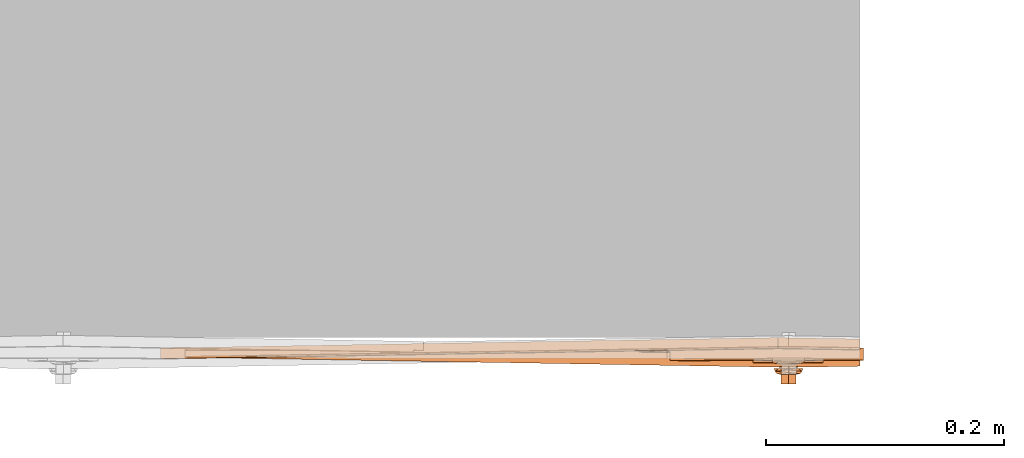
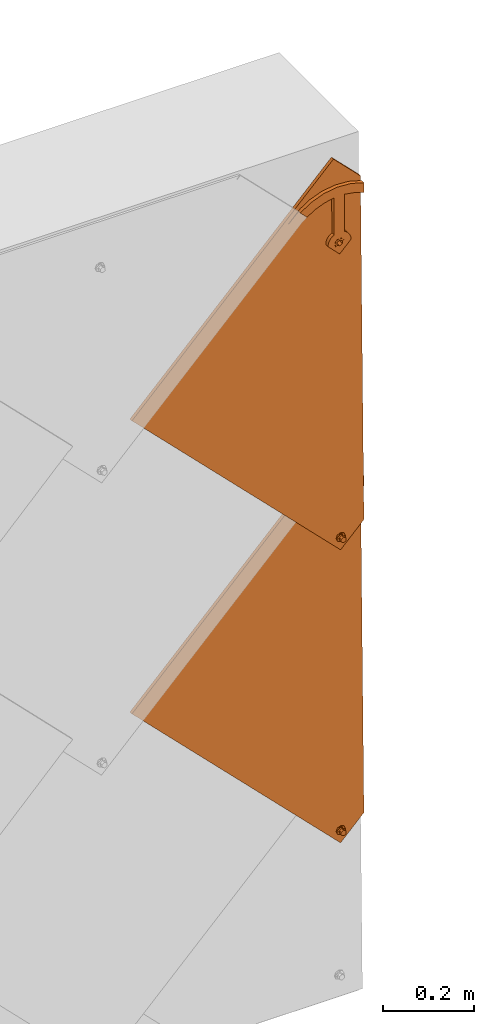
# One storey, part 6 of 151: 2 proxies.
"""IFC2X3 building model written with IfcOpenShell, lengths in millimetres."""

from ifc_helpers import new_model, entity, si_unit, converted_unit, derived_unit, direction, frame, origin, place, context, subcontext, project, spatial, faceted_brep, source, transform, mapped, material, material_list, type_object, type_shapes, element, save


model = new_model("IFC2X3")

# Units and contexts
model_context = context("Model", 3, precision=0.01, world=origin(), true_north=direction((6.12303176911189e-17, 1.0)))
body_context = subcontext(model_context, "Body", "Model", "MODEL_VIEW")
ifc_project = project(units=[si_unit("LENGTHUNIT", "METRE", prefix="MILLI"), si_unit("AREAUNIT", "SQUARE_METRE"), si_unit("VOLUMEUNIT", "CUBIC_METRE"), converted_unit("PLANEANGLEUNIT", "DEGREE", entity("IfcRatioMeasure", 0.0174532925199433), si_unit("PLANEANGLEUNIT", "RADIAN"), dimensions=[0, 0, 0, 0, 0, 0, 0]), si_unit("MASSUNIT", "GRAM", prefix="KILO"), derived_unit("MASSDENSITYUNIT", [(si_unit("MASSUNIT", "GRAM", prefix="KILO"), 1), (si_unit("LENGTHUNIT", "METRE"), -3)]), si_unit("TIMEUNIT", "SECOND"), si_unit("FREQUENCYUNIT", "HERTZ"), si_unit("THERMODYNAMICTEMPERATUREUNIT", "DEGREE_CELSIUS"), derived_unit("THERMALTRANSMITTANCEUNIT", [(si_unit("MASSUNIT", "GRAM", prefix="KILO"), 1), (si_unit("THERMODYNAMICTEMPERATUREUNIT", "KELVIN"), -1), (si_unit("TIMEUNIT", "SECOND"), -3)]), derived_unit("VOLUMETRICFLOWRATEUNIT", [(si_unit("LENGTHUNIT", "METRE"), 3), (si_unit("TIMEUNIT", "SECOND"), -1)]), si_unit("ELECTRICCURRENTUNIT", "AMPERE"), si_unit("ELECTRICVOLTAGEUNIT", "VOLT"), si_unit("POWERUNIT", "WATT"), si_unit("FORCEUNIT", "NEWTON", prefix="KILO"), si_unit("ILLUMINANCEUNIT", "LUX"), si_unit("LUMINOUSFLUXUNIT", "LUMEN"), si_unit("LUMINOUSINTENSITYUNIT", "CANDELA"), derived_unit("USERDEFINED", [(si_unit("MASSUNIT", "GRAM", prefix="KILO"), -1), (si_unit("LENGTHUNIT", "METRE"), -2), (si_unit("TIMEUNIT", "SECOND"), 3), (si_unit("LUMINOUSFLUXUNIT", "LUMEN"), 1)]), derived_unit("LINEARVELOCITYUNIT", [(si_unit("LENGTHUNIT", "METRE"), 1), (si_unit("TIMEUNIT", "SECOND"), -1)]), si_unit("PRESSUREUNIT", "PASCAL"), derived_unit("USERDEFINED", [(si_unit("LENGTHUNIT", "METRE"), -2), (si_unit("MASSUNIT", "GRAM", prefix="KILO"), 1), (si_unit("TIMEUNIT", "SECOND"), -2)])], contexts=[model_context])

# Site, building, storey
site_placement = place(None, origin())
site = spatial("IfcSite", under=ifc_project, at=site_placement, Name="Default", CompositionType="ELEMENT")
building_placement = place(site_placement, origin())
building = spatial("IfcBuilding", under=site, at=building_placement, CompositionType="ELEMENT")
storey_placement = place(building_placement, origin())
storey = spatial("IfcBuildingStorey", under=building, at=storey_placement, Name="Level 1", CompositionType="ELEMENT", Elevation=0.0)

# Proxies
ifc_material_1 = material(Name="Rubber - Sunstyle - Black")
ifc_material_2 = material(Name="Glass - Sunstyle - Tainted Terracotta")
ifc_material_list_1 = material_list([ifc_material_1, ifc_material_2])
ifc_material_list_2 = material_list([ifc_material_1, ifc_material_2])
building_element_proxy_type = type_object("IfcBuildingElementProxyType", Name="Shingle Right - Terracotta", PredefinedType="NOTDEFINED", material=ifc_material_list_2)
shared_shape = source(origin(), body_context, "Body", "Brep", [
    faceted_brep([(526.70519509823, 41.3127833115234, 3.87722628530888), (520.930992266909, 37.9795131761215, 3.9330502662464), (520.930992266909, 38.34782226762, 25.9249196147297), (526.70519509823, 41.6810924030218, 25.8690956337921), (520.930992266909, 31.3129729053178, 4.0446982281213), (520.930992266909, 31.6812819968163, 26.0365675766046), (526.70519509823, 27.979702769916, 4.1005222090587), (526.70519509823, 28.3480118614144, 26.092391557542), (532.47939792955, 31.3129729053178, 4.04469822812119), (532.47939792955, 31.6812819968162, 26.0365675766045), (532.47939792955, 37.9795131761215, 3.93305026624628), (532.47939792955, 38.3478222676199, 25.9249196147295), (518.101490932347, 26.4120542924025, 26.1248140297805), (526.70519509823, 22.8487830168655, 26.1844899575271), (514.537719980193, 35.0145521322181, 25.9807435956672), (518.101490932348, 43.6170499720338, 25.8366731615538), (526.70519509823, 47.1803212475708, 25.776997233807), (535.308899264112, 43.6170499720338, 25.8366731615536), (538.872670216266, 35.0145521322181, 25.9807435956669), (535.308899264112, 26.4120542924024, 26.1248140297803), (515.380950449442, 37.3096292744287, 28.2935855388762), (516.94872054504, 35.0855670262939, 30.2210682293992), (526.70519509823, 42.3986422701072, 30.8537686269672), (526.70519509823, 43.6391399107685, 30.2734219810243), (526.70519509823, 45.7966907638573, 29.2640469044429), (526.70519509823, 23.4048270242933, 27.4595479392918), (526.70519509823, 24.3484036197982, 29.6232523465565), (526.70519509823, 27.7977793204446, 31.0982967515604), (526.70519509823, 46.6672851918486, 27.0699596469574), (520.381949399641, 31.4479950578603, 31.0371647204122), (520.381949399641, 38.7484265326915, 30.9149006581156), (538.029439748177, 32.7982090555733, 28.3691406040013), (536.554075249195, 34.0111605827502, 30.1422000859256), (533.028440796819, 38.7484265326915, 30.9149006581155), (533.028440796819, 31.4479950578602, 31.0371647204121), (520.381949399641, 31.5820235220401, 39.0400528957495), (526.70519509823, 27.9318077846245, 39.1011849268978), (526.70519509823, 35.2322392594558, 38.9789208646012), (520.381949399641, 38.8824549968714, 38.9177888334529), (533.028440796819, 31.5820235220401, 39.0400528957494), (533.028440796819, 38.8824549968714, 38.9177888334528), (526.70519509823, 42.532670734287, 38.8566568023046), (526.70519509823, 34.6462430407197, 3.98887424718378)], [[[0, 1, 2, 3]], [[1, 4, 5, 2]], [[4, 6, 7, 5]], [[6, 8, 9, 7]], [[8, 10, 11, 9]], [[10, 0, 3, 11]], [[12, 7, 13]], [[7, 12, 5]], [[14, 5, 12]], [[5, 14, 2]], [[15, 2, 14]], [[3, 2, 15]], [[15, 16, 3]], [[16, 17, 3]], [[11, 3, 17]], [[11, 17, 18]], [[9, 11, 18]], [[18, 19, 9]], [[7, 9, 19]], [[19, 13, 7]], [[20, 14, 12]], [[21, 22, 23, 24]], [[24, 20, 21]], [[25, 20, 12]], [[26, 27, 21]], [[15, 14, 20]], [[12, 13, 25]], [[20, 28, 15]], [[28, 20, 24]], [[21, 27, 29]], [[21, 29, 30]], [[26, 21, 20]], [[20, 25, 26]], [[15, 28, 16]], [[21, 30, 22]], [[31, 18, 17]], [[28, 31, 17]], [[32, 27, 26]], [[26, 31, 32]], [[26, 25, 31]], [[25, 19, 31]], [[17, 16, 28]], [[31, 19, 18]], [[24, 31, 28]], [[33, 34, 32]], [[23, 22, 33]], [[24, 32, 31]], [[27, 32, 34]], [[32, 23, 33]], [[19, 25, 13]], [[32, 24, 23]], [[35, 36, 37]], [[37, 38, 35]], [[36, 39, 37]], [[40, 37, 39]], [[37, 40, 41]], [[37, 41, 38]], [[42, 6, 4]], [[4, 1, 42]], [[1, 0, 42]], [[42, 8, 6]], [[0, 10, 42]], [[8, 42, 10]], [[22, 30, 38, 41]], [[30, 29, 35, 38]], [[29, 27, 36, 35]], [[27, 34, 39, 36]], [[34, 33, 40, 39]], [[33, 22, 41, 40]]]),
    faceted_brep([(526.70519509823, 811.19100538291, 21.4210230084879), (526.70519509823, 815.690374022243, 21.3456697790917), (518.101490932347, 814.754276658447, 21.3613470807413), (535.308899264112, 814.754276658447, 21.3613470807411), (533.345423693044, 819.523574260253, 21.2814732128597), (538.872670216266, 823.356774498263, 21.2172766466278), (533.345423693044, 827.189974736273, 21.1530800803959), (535.308899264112, 831.959272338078, 21.0732062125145), (526.70519509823, 831.023174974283, 21.0888835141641), (526.70519509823, 835.522543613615, 21.0135302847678), (518.101490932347, 831.959272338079, 21.0732062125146), (520.064966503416, 827.189974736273, 21.1530800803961), (514.537719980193, 823.356774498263, 21.217276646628), (520.064966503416, 819.523574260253, 21.2814732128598), (520.064966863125, 826.922051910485, 5.15532344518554), (526.70519509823, 830.755251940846, 5.09112688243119), (520.064966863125, 819.255651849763, 5.2837165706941), (526.70519509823, 815.422451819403, 5.34791313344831), (533.345423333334, 819.255651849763, 5.28371657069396), (533.345423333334, 826.922051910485, 5.1553234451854), (518.101490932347, 814.486354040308, 5.36359044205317), (526.70519509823, 810.923082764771, 5.4232663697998), (514.537719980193, 823.088851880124, 5.21952000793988), (518.101490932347, 831.69134971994, 5.07544957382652), (526.70519509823, 835.254620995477, 5.01577364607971), (535.308899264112, 831.69134971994, 5.07544957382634), (538.872670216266, 823.088851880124, 5.21952000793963), (535.308899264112, 814.486354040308, 5.36359044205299)], [[[0, 1, 2]], [[1, 0, 3]], [[3, 4, 1]], [[4, 3, 5]], [[6, 4, 5]], [[5, 7, 6]], [[7, 8, 6]], [[8, 7, 9]], [[8, 9, 10]], [[10, 11, 8]], [[12, 11, 10]], [[2, 13, 12]], [[12, 13, 11]], [[13, 2, 1]], [[8, 11, 14, 15]], [[11, 13, 16, 14]], [[13, 1, 17, 16]], [[1, 4, 18, 17]], [[4, 6, 19, 18]], [[6, 8, 15, 19]], [[20, 17, 21]], [[17, 20, 16]], [[22, 16, 20]], [[14, 16, 22]], [[23, 14, 22]], [[15, 14, 23]], [[23, 24, 15]], [[24, 25, 15]], [[19, 15, 25]], [[19, 25, 26]], [[26, 18, 19]], [[26, 27, 18]], [[17, 18, 27]], [[27, 21, 17]], [[24, 23, 10, 9]], [[10, 23, 22, 12]], [[20, 21, 0, 2]], [[20, 2, 12, 22]], [[21, 27, 3, 0]], [[3, 27, 26, 5]], [[25, 24, 9, 7]], [[25, 7, 5, 26]]]),
    faceted_brep([(578.30986553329, 967.15023469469, 8.79467739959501), (586.794551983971, 975.634921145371, 8.65258001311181), (586.794551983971, 975.660038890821, 10.1523696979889), (578.30986553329, 967.17535244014, 10.294467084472), (517.891471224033, 1027.55168765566, 7.7831033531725), (8.48468645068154, 518.287740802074, 16.3120073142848), (0.0, 526.772427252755, 16.1699099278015), (517.891471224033, 1044.51868144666, 7.49894842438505), (517.891471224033, 1044.54379919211, 8.99873810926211), (0.0, 526.797544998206, 17.6696996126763), (8.4846864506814, 518.312858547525, 17.8117969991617), (517.891471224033, 1027.57680540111, 9.28289303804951)], [[[0, 1, 2, 3]], [[1, 0, 4, 5, 6, 7]], [[2, 1, 7, 8]], [[3, 2, 8, 9, 10, 11]], [[0, 3, 11, 4]], [[5, 10, 9, 6]], [[8, 7, 6, 9]], [[4, 11, 10, 5]]]),
    faceted_brep([(586.794551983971, 975.634921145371, 8.65258001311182), (517.891471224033, 1044.51868144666, 7.49894842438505), (523.812678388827, 834.561085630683, 11.0152157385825), (526.918506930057, 834.969918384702, 11.0083688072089), (530.024335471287, 834.561085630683, 11.0152157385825), (532.918506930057, 833.362448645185, 11.0352899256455), (535.403788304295, 831.455692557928, 11.0672233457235), (537.31081177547, 828.970759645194, 11.1088397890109), (538.509616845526, 826.076993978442, 11.1573031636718), (538.918506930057, 822.971600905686, 11.2093107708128), (538.509616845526, 819.86620783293, 11.2613183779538), (586.79455198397, 60.1087646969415, 23.9853651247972), (520.918506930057, 833.362448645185, 11.0352899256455), (518.433225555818, 831.455692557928, 11.0672233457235), (516.526202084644, 828.970759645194, 11.1088397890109), (515.327397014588, 826.076993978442, 11.1573031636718), (0.0, 526.772427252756, 16.1699099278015), (514.918506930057, 822.971600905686, 11.2093107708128), (515.327397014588, 819.86620783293, 11.2613183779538), (516.526202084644, 816.972442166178, 11.3097817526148), (518.433225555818, 814.487509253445, 11.3513981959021), (520.918506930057, 812.580753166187, 11.3833316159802), (523.812678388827, 811.382116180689, 11.4034058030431), (524.667140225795, 42.642731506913, 24.2778777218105), (522.737692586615, 41.8436401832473, 24.2912605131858), (521.080838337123, 40.572469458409, 24.3125494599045), (519.80948935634, 38.9158475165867, 24.3402937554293), (519.010285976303, 36.9866704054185, 24.37260267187), (518.737692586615, 34.9164083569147, 24.407274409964), (519.010285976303, 32.8461463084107, 24.441946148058), (526.794551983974, 0.125588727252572, 24.989934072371), (519.80948935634, 30.9169691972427, 24.4742550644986), (533.665895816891, 30.9169691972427, 24.4742550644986), (532.394546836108, 29.2603472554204, 24.5019993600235), (530.737692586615, 27.9891765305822, 24.5232883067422), (528.808244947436, 27.1900852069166, 24.5366710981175), (526.737692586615, 26.9175300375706, 24.5412357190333), (524.667140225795, 27.1900852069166, 24.5366710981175), (522.737692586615, 27.9891765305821, 24.5232883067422), (521.080838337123, 29.2603472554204, 24.5019993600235), (526.737692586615, 42.9152866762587, 24.2733131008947), (528.808244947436, 42.6427315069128, 24.2778777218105), (530.737692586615, 41.8436401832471, 24.2912605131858), (532.394546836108, 40.572469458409, 24.3125494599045), (533.665895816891, 38.9158475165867, 24.3402937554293), (534.465099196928, 36.9866704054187, 24.37260267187), (534.737692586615, 34.9164083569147, 24.407274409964), (534.465099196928, 32.8461463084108, 24.441946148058), (526.918506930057, 810.97328342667, 11.4102527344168), (537.31081177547, 816.972442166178, 11.3097817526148), (535.403788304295, 814.487509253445, 11.3513981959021), (532.918506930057, 812.580753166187, 11.3833316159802), (530.024335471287, 811.382116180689, 11.4034058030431), (0.0, 526.646838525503, 8.67096150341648), (519.80948935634, 38.790258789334, 16.8413453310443), (519.010285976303, 36.8610816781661, 16.8736542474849), (521.080838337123, 40.4468807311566, 16.8136010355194), (518.737692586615, 34.7908196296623, 16.9083259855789), (519.010285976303, 32.7205575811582, 16.9429977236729), (526.794551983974, 0.0, 17.4909856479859), (522.737692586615, 41.7180514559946, 16.7923120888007), (524.667140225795, 42.5171427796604, 16.7789292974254), (523.812678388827, 811.256527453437, 3.90445737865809), (520.918506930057, 812.455164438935, 3.88438319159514), (518.433225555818, 814.361920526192, 3.85244977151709), (516.526202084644, 816.846853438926, 3.81083332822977), (515.327397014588, 819.740619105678, 3.76236995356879), (514.918506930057, 822.846012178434, 3.71036234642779), (515.327397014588, 825.95140525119, 3.65835473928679), (517.891471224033, 1044.39309271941, 0.0), (516.526202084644, 828.845170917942, 3.60989136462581), (518.433225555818, 831.330103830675, 3.56827492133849), (520.918506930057, 833.236859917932, 3.53634150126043), (523.812678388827, 834.435496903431, 3.51626731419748), (586.794551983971, 975.509332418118, 1.15363158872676), (526.918506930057, 834.84432965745, 3.50942038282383), (530.024335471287, 834.435496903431, 3.51626731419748), (532.918506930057, 833.236859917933, 3.53634150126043), (535.403788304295, 831.330103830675, 3.56827492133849), (537.31081177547, 828.845170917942, 3.60989136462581), (538.509616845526, 825.95140525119, 3.65835473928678), (538.918506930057, 822.846012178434, 3.71036234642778), (538.509616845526, 819.740619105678, 3.76236995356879), (586.79455198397, 59.983175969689, 16.4864167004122), (526.737692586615, 42.7896979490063, 16.7743646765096), (528.808244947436, 42.5171427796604, 16.7789292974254), (530.737692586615, 41.7180514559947, 16.7923120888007), (532.394546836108, 40.4468807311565, 16.8136010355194), (533.665895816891, 30.7913804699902, 16.9753066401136), (534.465099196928, 32.7205575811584, 16.9429977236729), (534.737692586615, 34.7908196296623, 16.9083259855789), (534.465099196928, 36.8610816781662, 16.8736542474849), (533.665895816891, 38.7902587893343, 16.8413453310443), (526.918506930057, 810.847694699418, 3.91130431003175), (530.024335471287, 811.256527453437, 3.90445737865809), (532.918506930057, 812.455164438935, 3.88438319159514), (535.403788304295, 814.361920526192, 3.85244977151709), (537.31081177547, 816.846853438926, 3.81083332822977), (519.80948935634, 30.7913804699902, 16.9753066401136), (521.080838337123, 29.134758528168, 17.0030509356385), (522.737692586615, 27.8635878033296, 17.0243398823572), (524.667140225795, 27.0644964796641, 17.0377226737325), (526.737692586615, 26.7919413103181, 17.0422872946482), (528.808244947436, 27.0644964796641, 17.0377226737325), (530.737692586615, 27.8635878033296, 17.0243398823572), (532.394546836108, 29.1347585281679, 17.0030509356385)], [[[0, 1, 2]], [[0, 2, 3]], [[3, 4, 0]], [[4, 5, 0]], [[0, 5, 6]], [[6, 7, 0]], [[7, 8, 0]], [[8, 9, 0]], [[9, 10, 0]], [[0, 10, 11]], [[2, 1, 12]], [[13, 12, 1]], [[14, 13, 1]], [[14, 1, 15]], [[15, 1, 16]], [[16, 17, 15]], [[17, 16, 18]], [[19, 18, 16]], [[19, 16, 20]], [[21, 20, 16]], [[22, 21, 16]], [[23, 22, 16]], [[24, 23, 16]], [[16, 25, 24]], [[25, 16, 26]], [[26, 16, 27]], [[28, 27, 16]], [[28, 16, 29]], [[29, 16, 30]], [[30, 31, 29]], [[11, 32, 30]], [[30, 32, 33]], [[34, 30, 33]], [[34, 35, 30]], [[36, 30, 35]], [[30, 36, 37]], [[37, 38, 30]], [[38, 39, 30]], [[39, 31, 30]], [[23, 11, 22]], [[11, 23, 40]], [[11, 40, 41]], [[11, 41, 42]], [[42, 43, 11]], [[44, 11, 43]], [[44, 45, 11]], [[45, 46, 11]], [[47, 11, 46]], [[11, 47, 32]], [[22, 11, 48]], [[10, 49, 11]], [[49, 50, 11]], [[50, 51, 11]], [[51, 52, 11]], [[52, 48, 11]], [[53, 54, 55]], [[54, 53, 56]], [[53, 55, 57]], [[57, 58, 53]], [[53, 58, 59]], [[60, 56, 53]], [[61, 60, 53]], [[61, 53, 62]], [[62, 53, 63]], [[53, 64, 63]], [[64, 53, 65]], [[65, 53, 66]], [[66, 53, 67]], [[67, 53, 68]], [[53, 69, 68]], [[70, 68, 69]], [[71, 70, 69]], [[69, 72, 71]], [[73, 72, 69]], [[73, 69, 74]], [[75, 73, 74]], [[75, 74, 76]], [[77, 76, 74]], [[74, 78, 77]], [[79, 78, 74]], [[80, 79, 74]], [[80, 74, 81]], [[81, 74, 82]], [[82, 74, 83]], [[84, 61, 83]], [[83, 85, 84]], [[86, 85, 83]], [[83, 87, 86]], [[59, 88, 83]], [[83, 88, 89]], [[90, 83, 89]], [[90, 91, 83]], [[91, 92, 83]], [[87, 83, 92]], [[62, 83, 61]], [[93, 83, 62]], [[83, 93, 94]], [[94, 95, 83]], [[83, 95, 96]], [[96, 97, 83]], [[97, 82, 83]], [[59, 58, 98]], [[99, 59, 98]], [[99, 100, 59]], [[100, 101, 59]], [[102, 59, 101]], [[59, 102, 103]], [[59, 103, 104]], [[104, 105, 59]], [[105, 88, 59]], [[16, 1, 69, 53]], [[30, 16, 53, 59]], [[11, 30, 59, 83]], [[1, 0, 74, 69]], [[28, 57, 55, 27]], [[27, 55, 54, 26]], [[24, 25, 56, 60]], [[56, 25, 26, 54]], [[23, 24, 60, 61]], [[23, 61, 84, 40]], [[40, 84, 85, 41]], [[41, 85, 86, 42]], [[44, 43, 87, 92]], [[87, 43, 42, 86]], [[45, 44, 92, 91]], [[45, 91, 90, 46]], [[46, 90, 89, 47]], [[47, 89, 88, 32]], [[34, 33, 105, 104]], [[105, 33, 32, 88]], [[35, 34, 104, 103]], [[35, 103, 102, 36]], [[36, 102, 101, 37]], [[37, 101, 100, 38]], [[31, 39, 99, 98]], [[39, 38, 100, 99]], [[58, 29, 31, 98]], [[29, 58, 57, 28]], [[17, 67, 68, 15]], [[15, 68, 70, 14]], [[12, 13, 71, 72]], [[71, 13, 14, 70]], [[2, 12, 72, 73]], [[2, 73, 75, 3]], [[3, 75, 76, 4]], [[4, 76, 77, 5]], [[7, 6, 78, 79]], [[78, 6, 5, 77]], [[8, 7, 79, 80]], [[8, 80, 81, 9]], [[9, 81, 82, 10]], [[10, 82, 97, 49]], [[51, 50, 96, 95]], [[96, 50, 49, 97]], [[52, 51, 95, 94]], [[52, 94, 93, 48]], [[48, 93, 62, 22]], [[22, 62, 63, 21]], [[19, 20, 64, 65]], [[64, 20, 21, 63]], [[18, 19, 65, 66]], [[18, 66, 67, 17]], [[0, 11, 83, 74]]]),
    faceted_brep([(503.195324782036, 841.557074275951, 20.8994526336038), (517.914693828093, 832.008099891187, 21.0593741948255), (507.695869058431, 846.190079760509, 20.8218613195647), (516.007670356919, 829.523166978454, 21.1009906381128), (499.815755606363, 836.052923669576, 20.9916334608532), (514.808865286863, 826.629401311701, 21.1494540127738), (497.720422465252, 829.943523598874, 21.0939507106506), (514.399975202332, 823.524008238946, 21.2014616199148), (497.010547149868, 823.524008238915, 21.2014616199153), (514.808865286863, 820.41861516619, 21.2534692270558), (516.007670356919, 817.524849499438, 21.3019326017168), (517.914693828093, 815.039916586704, 21.3435490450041), (526.399975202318, 794.138700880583, 21.6935924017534), (520.399975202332, 813.133160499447, 21.3754824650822), (523.294146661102, 811.934523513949, 21.3955566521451), (526.399975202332, 811.52569075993, 21.4024035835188), (529.505803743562, 811.934523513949, 21.3955566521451), (532.399975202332, 813.133160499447, 21.3754824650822), (534.885256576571, 815.039916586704, 21.3435490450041), (555.789403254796, 823.524008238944, 21.2014616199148), (536.792280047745, 817.524849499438, 21.3019326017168), (537.991085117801, 820.41861516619, 21.2534692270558), (538.399975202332, 823.524008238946, 21.2014616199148), (555.079527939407, 829.943523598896, 21.0939507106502), (537.991085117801, 826.629401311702, 21.1494540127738), (552.984194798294, 836.052923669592, 20.9916334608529), (536.792280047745, 829.523166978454, 21.1009906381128), (549.604625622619, 841.557074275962, 20.8994526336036), (534.88525657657, 832.008099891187, 21.0593741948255), (545.104081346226, 846.190079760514, 20.8218613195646), (532.399975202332, 833.914855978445, 21.0274407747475), (539.69997520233, 849.728127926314, 20.7626078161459), (529.505803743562, 835.113492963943, 21.0073665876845), (526.399975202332, 835.522325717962, 21.0005196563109), (513.09997520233, 849.728127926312, 20.762607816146), (513.099975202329, 947.789128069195, 19.1203300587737), (539.699975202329, 948.373752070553, 19.1105390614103), (522.252457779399, 973.425526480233, 18.6909841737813), (556.520926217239, 971.308509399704, 18.7264389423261), (565.239246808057, 944.126992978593, 19.1816617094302), (589.568348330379, 961.999667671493, 18.8823388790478), (589.568348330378, 935.274464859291, 19.3299195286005), (488.310294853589, 968.25512753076, 18.7775754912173), (488.729131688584, 942.717602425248, 19.2052654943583), (456.227055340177, 956.030775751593, 18.9823029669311), (465.633151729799, 933.432284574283, 19.3607714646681), (444.534595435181, 920.223666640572, 19.5819829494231), (427.451419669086, 937.304447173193, 19.2959223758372), (520.399975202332, 833.914855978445, 21.0274407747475), (523.294146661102, 835.113492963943, 21.0073665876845), (526.399975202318, 793.971249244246, 11.6949945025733), (526.399975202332, 811.358239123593, 11.4038056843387), (529.505803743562, 811.767071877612, 11.396958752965), (523.294146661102, 811.767071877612, 11.396958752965), (532.399975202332, 812.96570886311, 11.3768845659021), (534.885256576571, 814.872464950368, 11.344951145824), (555.789403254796, 823.356556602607, 11.2028637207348), (520.399975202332, 812.96570886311, 11.3768845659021), (517.914693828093, 814.872464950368, 11.344951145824), (497.010547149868, 823.356556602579, 11.2028637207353), (516.007670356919, 817.357397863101, 11.3033347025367), (514.808865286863, 820.251163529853, 11.2548713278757), (514.399975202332, 823.356556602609, 11.2028637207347), (497.720422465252, 829.776071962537, 11.0953528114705), (514.808865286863, 826.461949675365, 11.1508561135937), (499.815755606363, 835.885472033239, 10.9930355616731), (516.007670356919, 829.355715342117, 11.1023927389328), (503.195324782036, 841.389622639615, 10.9008547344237), (517.914693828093, 831.84064825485, 11.0607762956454), (507.695869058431, 846.022628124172, 10.8232634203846), (520.399975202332, 833.747404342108, 11.0288428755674), (513.09997520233, 849.560676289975, 10.7640099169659), (523.294146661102, 834.946041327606, 11.0087686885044), (526.399975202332, 835.354874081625, 11.0019217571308), (539.69997520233, 849.560676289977, 10.7640099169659), (513.099975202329, 947.621676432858, 9.12173215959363), (539.69997520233, 948.206300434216, 9.11194116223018), (522.252457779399, 973.258074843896, 8.69238627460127), (488.310294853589, 968.087675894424, 8.77897759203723), (488.729131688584, 942.550150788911, 9.20666759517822), (456.227055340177, 955.863324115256, 8.98370506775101), (465.633151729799, 933.264832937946, 9.36217356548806), (444.533467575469, 920.055518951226, 9.58339670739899), (428.044288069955, 936.544210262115, 9.30725215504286), (421.793762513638, 931.184466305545, 9.39701453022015), (415.826529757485, 925.515365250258, 9.49195786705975), (418.207622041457, 893.733364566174, 10.0242272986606), (401.122816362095, 910.815774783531, 9.73813943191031), (427.451419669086, 937.136995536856, 9.29732447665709), (556.520926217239, 971.141057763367, 8.727841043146), (565.239246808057, 943.959541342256, 9.18306381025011), (589.568348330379, 961.832216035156, 8.88374097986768), (589.568348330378, 935.107013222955, 9.33132162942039), (529.505803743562, 834.946041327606, 11.0087686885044), (532.399975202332, 833.747404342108, 11.0288428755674), (545.104081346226, 846.022628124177, 10.8232634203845), (534.88525657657, 831.84064825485, 11.0607762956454), (549.604625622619, 841.389622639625, 10.9008547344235), (536.792280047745, 829.355715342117, 11.1023927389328), (552.984194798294, 835.885472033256, 10.9930355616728), (537.991085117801, 826.461949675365, 11.1508561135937), (555.079527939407, 829.77607196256, 11.0953528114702), (538.399975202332, 823.356556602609, 11.2028637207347), (537.991085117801, 820.251163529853, 11.2548713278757), (536.792280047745, 817.357397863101, 11.3033347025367), (415.826529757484, 925.557228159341, 11.9916073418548), (401.122816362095, 910.857637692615, 12.2377889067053), (418.207622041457, 893.775227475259, 12.5238767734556), (444.534595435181, 920.09807791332, 12.083034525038), (428.042008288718, 936.584216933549, 11.8069327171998), (421.793762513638, 931.226329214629, 11.8966640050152)], [[[0, 1, 2]], [[3, 1, 0]], [[4, 3, 0]], [[5, 3, 4]], [[4, 6, 5]], [[6, 7, 5]], [[7, 6, 8]], [[9, 7, 8]], [[10, 9, 8]], [[10, 8, 11]], [[8, 12, 11]], [[13, 11, 12]], [[13, 12, 14]], [[12, 15, 14]], [[15, 12, 16]], [[16, 12, 17]], [[18, 17, 12]], [[18, 12, 19]], [[19, 20, 18]], [[21, 20, 19]], [[22, 21, 19]], [[19, 23, 22]], [[24, 22, 23]], [[23, 25, 24]], [[25, 26, 24]], [[26, 25, 27]], [[28, 26, 27]], [[27, 29, 28]], [[30, 28, 29]], [[29, 31, 30]], [[30, 31, 32]], [[32, 31, 33]], [[31, 34, 33]], [[35, 34, 31]], [[35, 31, 36]], [[36, 37, 35]], [[36, 38, 37]], [[39, 38, 36]], [[38, 39, 40]], [[41, 40, 39]], [[37, 42, 35]], [[35, 42, 43]], [[43, 42, 44]], [[44, 45, 43]], [[44, 46, 45]], [[46, 44, 47]], [[48, 34, 2]], [[48, 49, 34]], [[34, 49, 33]], [[48, 2, 1]], [[50, 51, 52]], [[51, 50, 53]], [[50, 52, 54]], [[54, 55, 50]], [[50, 55, 56]], [[57, 53, 50]], [[58, 57, 50]], [[58, 50, 59]], [[59, 60, 58]], [[60, 59, 61]], [[61, 59, 62]], [[63, 62, 59]], [[64, 62, 63]], [[63, 65, 64]], [[64, 65, 66]], [[65, 67, 66]], [[68, 66, 67]], [[69, 68, 67]], [[69, 70, 68]], [[70, 69, 71]], [[71, 72, 70]], [[71, 73, 72]], [[74, 73, 71]], [[71, 75, 74]], [[75, 76, 74]], [[76, 75, 77]], [[77, 75, 78]], [[79, 78, 75]], [[80, 78, 79]], [[79, 81, 80]], [[81, 82, 80]], [[82, 83, 80]], [[84, 83, 82]], [[84, 82, 85]], [[82, 86, 85]], [[86, 87, 85]], [[83, 88, 80]], [[76, 77, 89]], [[89, 90, 76]], [[90, 89, 91]], [[91, 92, 90]], [[93, 73, 74]], [[74, 94, 93]], [[94, 74, 95]], [[95, 96, 94]], [[95, 97, 96]], [[96, 97, 98]], [[99, 98, 97]], [[99, 100, 98]], [[101, 100, 99]], [[102, 100, 101]], [[56, 102, 101]], [[103, 102, 56]], [[56, 55, 104]], [[103, 56, 104]], [[34, 35, 75, 71]], [[2, 34, 71, 69]], [[0, 2, 69, 67]], [[67, 65, 4, 0]], [[6, 4, 65, 63]], [[8, 6, 63, 59]], [[12, 8, 59, 50]], [[19, 12, 50, 56]], [[23, 19, 56, 101]], [[25, 23, 101, 99]], [[99, 97, 27, 25]], [[29, 27, 97, 95]], [[31, 29, 95, 74]], [[36, 31, 74, 76]], [[38, 40, 91, 89]], [[37, 38, 89, 77]], [[77, 78, 42, 37]], [[44, 42, 78, 80]], [[47, 44, 80, 88]], [[7, 62, 64, 5]], [[5, 64, 66, 3]], [[48, 1, 68, 70]], [[66, 68, 1, 3]], [[49, 48, 70, 72]], [[73, 33, 49, 72]], [[32, 93, 94, 30]], [[30, 94, 96, 28]], [[24, 26, 98, 100]], [[96, 98, 26, 28]], [[22, 24, 100, 102]], [[32, 33, 73, 93]], [[22, 102, 103, 21]], [[21, 103, 104, 20]], [[17, 18, 55, 54]], [[104, 55, 18, 20]], [[16, 17, 54, 52]], [[51, 15, 16, 52]], [[14, 53, 57, 13]], [[13, 57, 58, 11]], [[9, 10, 60, 61]], [[58, 60, 10, 11]], [[7, 9, 61, 62]], [[14, 15, 51, 53]], [[105, 106, 107, 108, 109, 110]], [[107, 106, 87, 86]], [[108, 107, 82]], [[86, 82, 107]], [[109, 83, 110]], [[110, 83, 84]], [[84, 85, 105, 110]], [[106, 105, 85, 87]], [[46, 47, 109]], [[109, 47, 88]], [[46, 109, 108]], [[83, 109, 88]], [[108, 81, 45, 46]], [[108, 82, 81]], [[79, 75, 35, 43]], [[81, 79, 43, 45]], [[76, 90, 39, 36]], [[92, 41, 39, 90]], [[40, 41, 92, 91]]]),
])
type_shapes(building_element_proxy_type, [shared_shape])
proxy_1_placement = place(storey_placement, frame((-11793.3986192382, -13192.0027947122, 659.37232652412), z_axis=(0.0, -1.0, 0.0), x_axis=(1.0, 0.0, 0.0)))
element("IfcBuildingElementProxy", 1, at=proxy_1_placement, inside=storey, type_object=building_element_proxy_type, material=ifc_material_list_1, Name="Roofing_Panels_SunStyle_Tile_Shingle-Right:Shingle Right - Terracotta", ObjectType="Roofing_Panels_SunStyle_Tile_Shingle-Right:Shingle Right - Terracotta", context=body_context, shape_type="MappedRepresentation", body=[
    mapped(shared_shape, transform((0.0, 0.0, 0.0), scale=1.0)),
])
ifc_material_list_3 = material_list([ifc_material_1, ifc_material_2])
proxy_2_placement = place(storey_placement, frame((-11793.3986192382, -13192.0027947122, 1447.71454889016), z_axis=(0.0, -1.0, 0.0), x_axis=(1.0, 0.0, 0.0)))
element("IfcBuildingElementProxy", 2, at=proxy_2_placement, inside=storey, type_object=building_element_proxy_type, material=ifc_material_list_3, Name="Roofing_Panels_SunStyle_Tile_Shingle-Right:Shingle Right - Terracotta", ObjectType="Roofing_Panels_SunStyle_Tile_Shingle-Right:Shingle Right - Terracotta", context=body_context, shape_type="MappedRepresentation", body=[
    mapped(shared_shape, transform((0.0, 0.0, 0.0), scale=1.0)),
])

save(model, "model.ifc")
